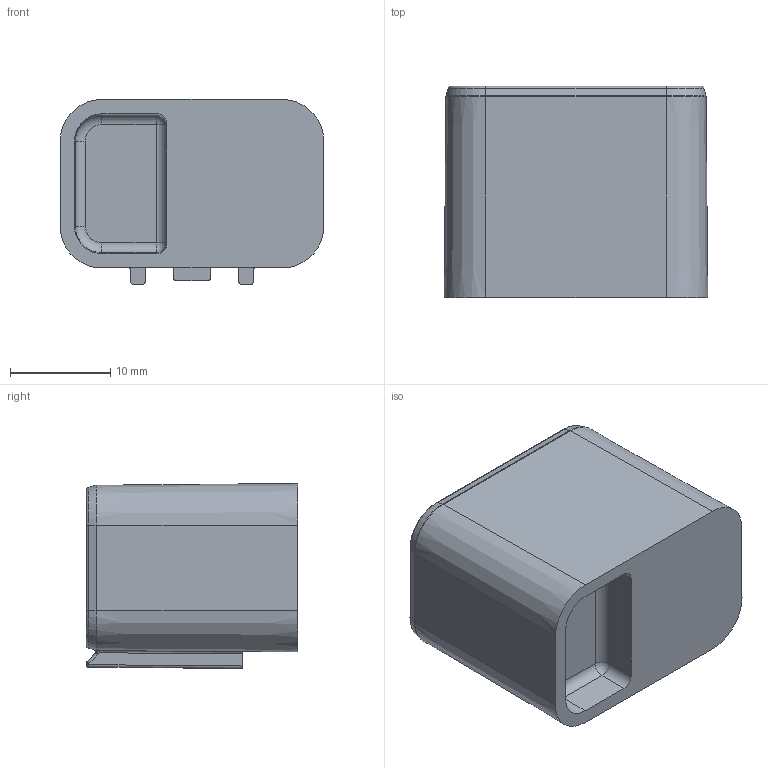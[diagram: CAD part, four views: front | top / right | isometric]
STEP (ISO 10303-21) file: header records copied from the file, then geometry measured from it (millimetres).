
FILE_DESCRIPTION(('CATIA V6 STEP','CAx-IF Rec.Pracs.--- Model Styling and Organization---1.5--- 2016-08-15','CAx-IF Rec.Pracs.---Supplemental Geometry---1.0---2011-11-01','CAx-IF Rec.Pracs.---Representation and Presentation of Product Manufacturing Information (PMI)---4.0---2014-10-13','CAx-IF Rec.Pracs.---User Defined Attributes---1.5---2016-08-15','CAx-IF Rec.Pracs.--- Composite Materials ---3.4---2017-06-13','CAx-IF Rec.Pracs.---Tessellated 3D Geometry---1.0---2015-12-17'),'2;1');
FILE_NAME('\\?\C:\root\24D718E80800000069409A2B001614FA.stp','2025-12-23T00:56:53+00:00',('none'),('none'),'3DEXPERIENCE Platform3DEXPERIENCE R2021x HotFix 10','3DEXPERIENCE Platform STEP AP242 v2','none');
FILE_SCHEMA(('AP242_MANAGED_MODEL_BASED_3D_ENGINEERING_MIM_LF {1 0 10303 442 1 1 4}'));
Products named in the file (1): LV CONN,4LP,2HP,INTERFACE
Bounding box: 26.33 x 21.1 x 18.48 mm (x, y, z)
Surface area: 16888.7 mm2
Topology: 4 solids, 4 shells, 2159 faces, 5058 edges, 2795 vertices
Faces by surface type: plane 727, cylinder 665, bspline 247, sphere 180, torus 128, extrusion 108, cone 104
Entity records: 76812 total; most frequent: CARTESIAN_POINT 33546, ORIENTED_EDGE 9756, DIRECTION 6906, EDGE_CURVE 4878, VERTEX_POINT 2795, AXIS2_PLACEMENT_3D 2747, VECTOR 2493, LINE 2385
